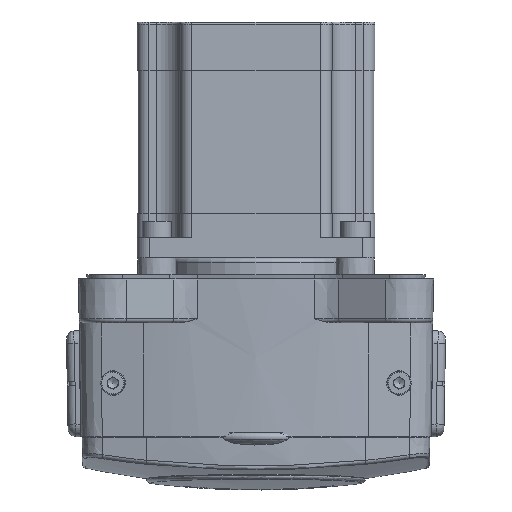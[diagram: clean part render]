
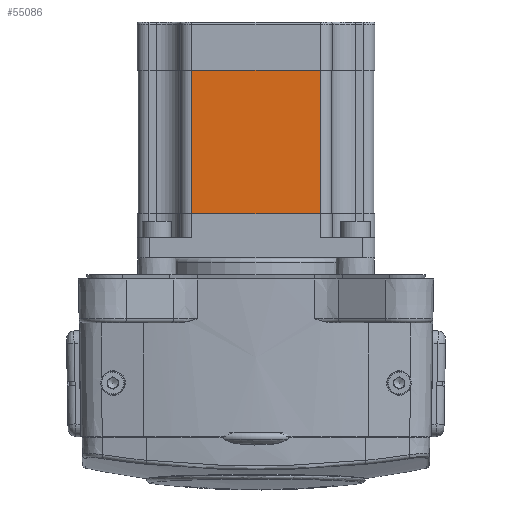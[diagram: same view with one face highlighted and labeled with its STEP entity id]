
A CAD part, front view. The second image highlights one B-rep face of the part: STEP entity #55086.
In plain terms, the highlighted planar face has unit normal (0, -1, 0).
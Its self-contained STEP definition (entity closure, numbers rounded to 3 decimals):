
#1380 = CARTESIAN_POINT ( 'NONE',  ( 15.25, -28., -70.562 ) ) ;
#2378 = CARTESIAN_POINT ( 'NONE',  ( -15.25, -28., 19.7 ) ) ;
#5352 = CARTESIAN_POINT ( 'NONE',  ( -15.25, -28., 53.7 ) ) ;
#8368 = EDGE_CURVE ( 'NONE', #34868, #28241, #56677, .T. ) ;
#10077 = DIRECTION ( 'NONE',  ( -1., 0., 0. ) ) ;
#10173 = ORIENTED_EDGE ( 'NONE', *, *, #57406, .F. ) ;
#11603 = DIRECTION ( 'NONE',  ( 0., -1., 0. ) ) ;
#12535 = CARTESIAN_POINT ( 'NONE',  ( -15.25, -28., -70.562 ) ) ;
#16039 = DIRECTION ( 'NONE',  ( 1., 0., 0. ) ) ;
#23956 = LINE ( 'NONE', #27473, #41630 ) ;
#24548 = AXIS2_PLACEMENT_3D ( 'NONE', #45529, #11603, #10077 ) ;
#27473 = CARTESIAN_POINT ( 'NONE',  ( -15.25, -28., 19.7 ) ) ;
#28241 = VERTEX_POINT ( 'NONE', #55081 ) ;
#30804 = VERTEX_POINT ( 'NONE', #5352 ) ;
#34868 = VERTEX_POINT ( 'NONE', #38616 ) ;
#36181 = LINE ( 'NONE', #12535, #52941 ) ;
#36890 = DIRECTION ( 'NONE',  ( 0., 0., 1. ) ) ;
#37188 = LINE ( 'NONE', #43243, #38315 ) ;
#37466 = ORIENTED_EDGE ( 'NONE', *, *, #69743, .F. ) ;
#38315 = VECTOR ( 'NONE', #71856, 1000. ) ;
#38616 = CARTESIAN_POINT ( 'NONE',  ( 15.25, -28., 19.7 ) ) ;
#41607 = ORIENTED_EDGE ( 'NONE', *, *, #8368, .T. ) ;
#41630 = VECTOR ( 'NONE', #16039, 1000. ) ;
#43243 = CARTESIAN_POINT ( 'NONE',  ( -15.25, -28., 53.7 ) ) ;
#45529 = CARTESIAN_POINT ( 'NONE',  ( -15.25, -28., -70.562 ) ) ;
#46076 = VECTOR ( 'NONE', #36890, 1000. ) ;
#47995 = DIRECTION ( 'NONE',  ( 0., 0., 1. ) ) ;
#52941 = VECTOR ( 'NONE', #47995, 1000. ) ;
#54981 = ORIENTED_EDGE ( 'NONE', *, *, #66888, .T. ) ;
#55081 = CARTESIAN_POINT ( 'NONE',  ( 15.25, -28., 53.7 ) ) ;
#55086 = ADVANCED_FACE ( 'NONE', ( #62310 ), #75263, .T. ) ;
#56677 = LINE ( 'NONE', #1380, #46076 ) ;
#57406 = EDGE_CURVE ( 'NONE', #30804, #28241, #37188, .T. ) ;
#62310 = FACE_OUTER_BOUND ( 'NONE', #62501, .T. ) ;
#62501 = EDGE_LOOP ( 'NONE', ( #54981, #41607, #10173, #37466 ) ) ;
#66888 = EDGE_CURVE ( 'NONE', #71372, #34868, #23956, .T. ) ;
#69743 = EDGE_CURVE ( 'NONE', #71372, #30804, #36181, .T. ) ;
#71372 = VERTEX_POINT ( 'NONE', #2378 ) ;
#71856 = DIRECTION ( 'NONE',  ( 1., 0., 0. ) ) ;
#75263 = PLANE ( 'NONE',  #24548 ) ;
